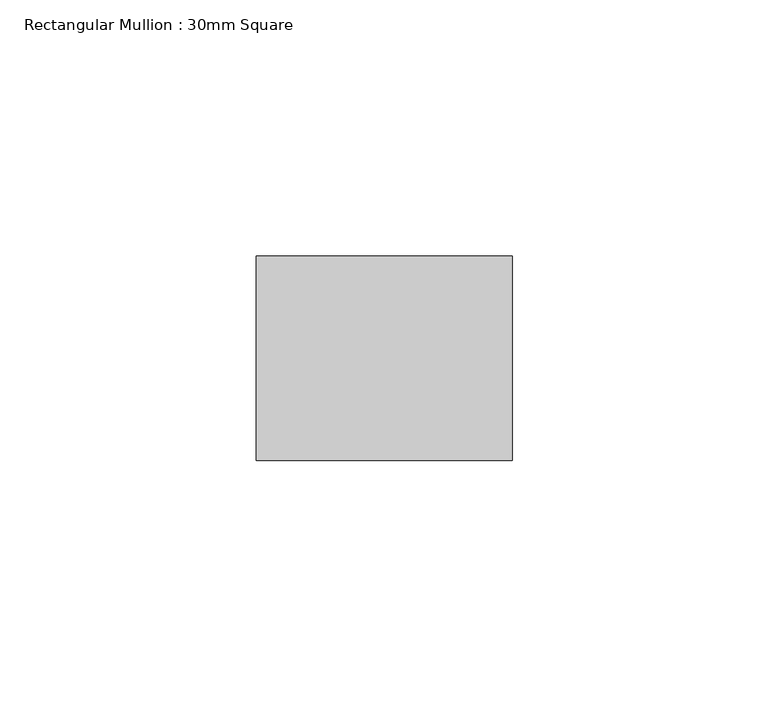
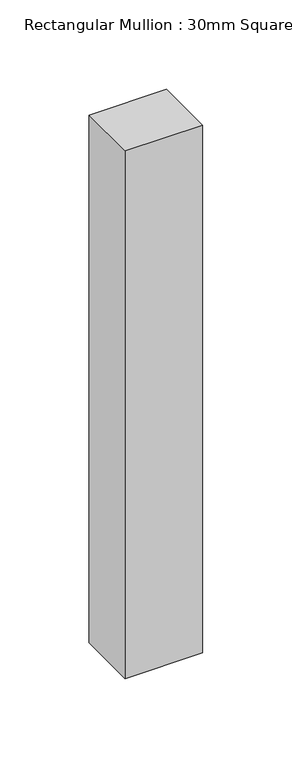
"""IFC4 building model written with IfcOpenShell, lengths in millimetres: member geometry, Rectangular Mullion : 30mm Square."""

from ifc_helpers import new_model, si_unit, frame, origin, place, context, project, spatial, polyline, outline, extrude, source, transform, mapped, element, save


def rectangular_mullion_30mm_square_169eb236(model_context):
    return source(origin(), model_context, "Body", "SweptSolid", [
        extrude(outline(polyline([(25.0, 20.0), (25.0, -20.0), (-25.0, -20.0), (-25.0, 20.0), (25.0, 20.0)])), frame((0.0, 0.0, -360.0), z_axis=(0.0, 0.0, 1.0), x_axis=(1.0, 0.0, 0.0)), (0.0, 0.0, 1.0), 360.0),
    ])


if __name__ == "__main__":
    model = new_model("IFC4")
    model_context = context("Model", 3, world=origin())
    ifc_project = project(units=[si_unit("LENGTHUNIT", "METRE", prefix="MILLI")], contexts=[model_context])
    site = spatial("IfcSite", under=ifc_project)
    building = spatial("IfcBuilding", under=site)
    placement = place(None, origin())
    rectangular_mullion_30mm_square_shape = rectangular_mullion_30mm_square_169eb236(model_context)
    element("IfcMember", 1, ObjectType="Rectangular Mullion : 30mm Square", at=placement, inside=building, context=model_context, shape_type="MappedRepresentation", body=[
        mapped(rectangular_mullion_30mm_square_shape, transform((0.0, 0.0, 0.0), x_axis=(1.0, 0.0, 0.0), y_axis=(0.0, 1.0, 0.0), z_axis=(0.0, 0.0, 1.0))),
    ])
    save(model, "model.ifc")
